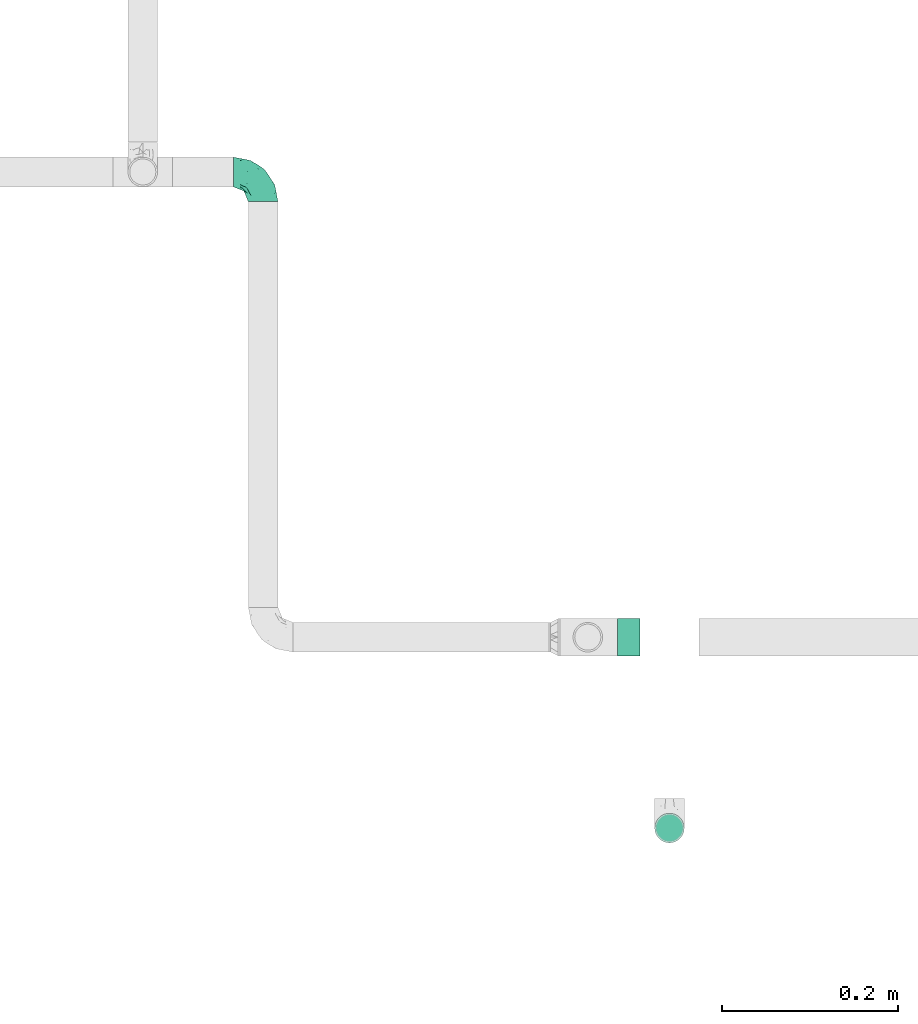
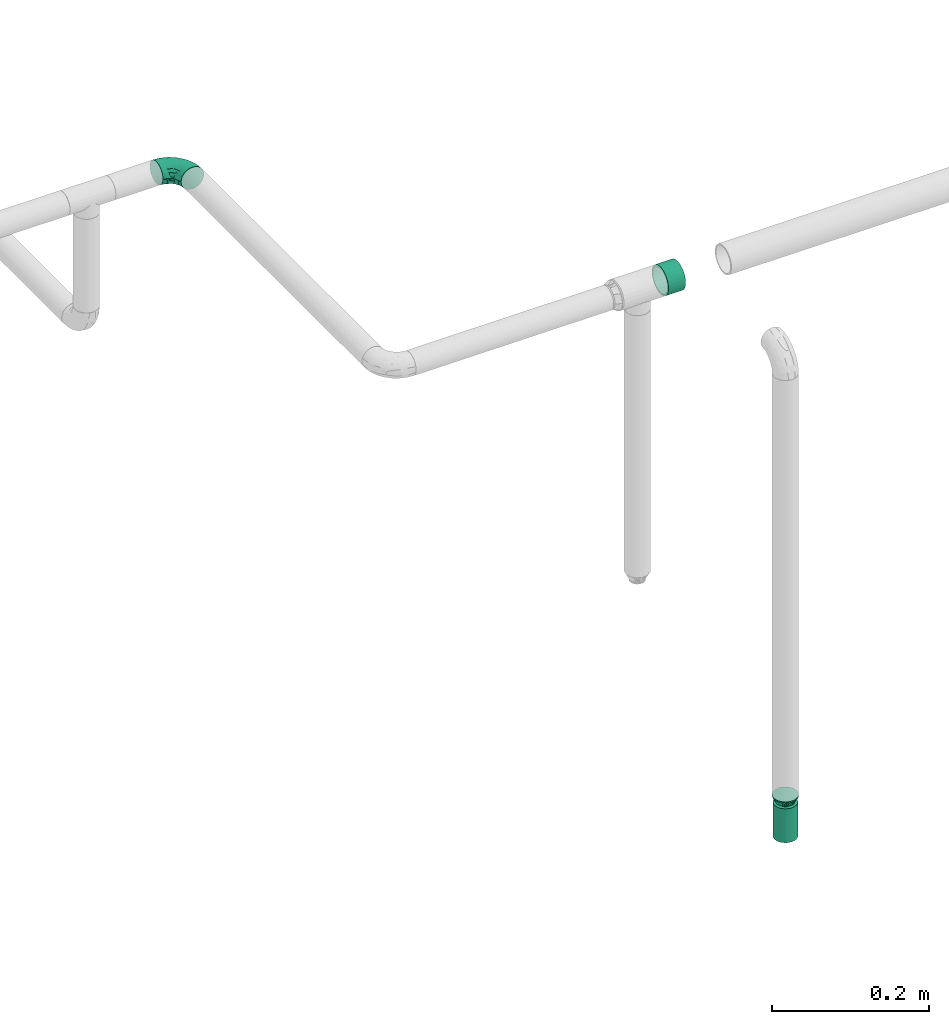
# One storey, part 59 of 94: 2 flow fittings, 1 flow segment, 1 flow terminal.
"""IFC2X3 building model written with IfcOpenShell, lengths in millimetres."""

from ifc_helpers import new_model, entity, si_unit, converted_unit, derived_unit, direction, frame, origin_with_axes, origin_2d_with_axis, place, context, subcontext, project, spatial, hollow_circle, extrude, open_shell, surface_model, source, transform, mapped, type_object, element, save


model = new_model("IFC2X3")

# Units and contexts
model_context = context("Model", 3, precision=0.01, world=frame((0.0, 4.29681676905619e-09, 0.0)), true_north=direction((4.01073788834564e-13, 1.0)))
plan_context = context("Plan", 3, precision=0.01, world=frame((0.0, 4.29681676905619e-09, 0.0)), true_north=direction((4.01073788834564e-13, 1.0)))
body_context = subcontext(model_context, "Body", "Model", "MODEL_VIEW")
ifc_project = project(units=[converted_unit("PLANEANGLEUNIT", "DEGREE", entity("IfcPositiveLengthMeasure", 0.0174532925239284), si_unit("PLANEANGLEUNIT", "RADIAN"), dimensions=[0, 0, 0, 0, 0, 0, 0]), si_unit("AREAUNIT", "SQUARE_METRE"), si_unit("LENGTHUNIT", "METRE", prefix="MILLI"), si_unit("MASSUNIT", "GRAM", prefix="KILO"), si_unit("POWERUNIT", "WATT"), si_unit("PRESSUREUNIT", "PASCAL", prefix="KILO"), si_unit("FORCEUNIT", "NEWTON", prefix="KILO"), si_unit("ELECTRICVOLTAGEUNIT", "VOLT"), si_unit("ELECTRICCURRENTUNIT", "AMPERE"), si_unit("THERMODYNAMICTEMPERATUREUNIT", "DEGREE_CELSIUS"), si_unit("TIMEUNIT", "SECOND"), si_unit("VOLUMEUNIT", "CUBIC_METRE"), derived_unit("LINEARVELOCITYUNIT", [(si_unit("LENGTHUNIT", "METRE"), 1), (si_unit("TIMEUNIT", "SECOND"), -1)]), derived_unit("VOLUMETRICFLOWRATEUNIT", [(si_unit("VOLUMEUNIT", "CUBIC_METRE"), 1), (si_unit("TIMEUNIT", "SECOND"), -1)]), derived_unit("THERMALTRANSMITTANCEUNIT", [(si_unit("POWERUNIT", "WATT"), 1), (si_unit("THERMODYNAMICTEMPERATUREUNIT", "KELVIN"), -1), (si_unit("AREAUNIT", "SQUARE_METRE"), -1)]), derived_unit("SOUNDPRESSUREUNIT", [(si_unit("PRESSUREUNIT", "PASCAL"), 1)])], contexts=[model_context, plan_context])

# Site, building, storey
site_placement = place(None, frame((0.0, -4.29681676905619e-09, 0.0), z_axis=(0.0, 0.0, 1.0), x_axis=(1.0, 0.0, 0.0)))
site = spatial("IfcSite", under=ifc_project, at=site_placement, CompositionType="ELEMENT")
building_placement = place(site_placement, frame((0.0, 4.29681676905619e-09, 0.0), z_axis=(0.0, 0.0, 1.0), x_axis=(1.0, 0.0, 0.0)))
building = spatial("IfcBuilding", under=site, at=building_placement, Name="mc-building", CompositionType="ELEMENT")
storey_placement = place(building_placement, frame((0.0, 0.0, 210900.0), z_axis=(0.0, 0.0, 1.0), x_axis=(1.0, 0.0, 0.0)))
storey = spatial("IfcBuildingStorey", under=building, at=storey_placement, Name="Nivå F", CompositionType="ELEMENT", Elevation=210900.0)

# Flow fittings
pipe_fitting_type_1 = type_object("IfcPipeFittingType", Name="magi_pipe_fe_elbow_short_001", PredefinedType="BEND")
shared_shape_1 = source(origin_with_axes(), body_context, "Body", "SurfaceModel", [
    surface_model("IfcShellBasedSurfaceModel", [(-33.8, 8.45, -14.63583), (-33.8, 4.37404, -16.32415), (-33.8, 11.9501, -11.9501), (-33.8, -11.9501, -11.9501), (-33.8, -14.63583, -8.45), (-33.8, -8.45, -14.63583), (-33.8, 0.0, -16.9), (-33.8, -4.37404, -16.32415), (-33.8, -4.37404, 16.32415), (-33.8, 0.0, 16.9), (-33.8, -8.45, 14.63583), (-33.8, 16.32415, -4.37404), (-33.8, 14.63583, -8.45), (-33.8, -16.32415, -4.37404), (-33.8, -16.9, 0.0), (-33.8, -16.32415, 4.37404), (-33.8, 11.9501, 11.9501), (-33.8, 14.63583, 8.45), (-33.8, 16.32415, 4.37404), (-33.8, 4.37404, 16.32415), (-33.8, 8.45, 14.63583), (-33.8, -14.63583, 8.45), (-33.8, -11.9501, 11.9501), (-33.8, 16.9, 0.0), (-11.9501, 33.8, -11.9501), (0.0, 33.8, -16.9), (-4.37404, 33.8, -16.32415), (-8.45, 33.8, -14.63583), (-14.63583, 33.8, -8.45), (-16.32415, 33.8, -4.37404), (14.63583, 33.8, -8.45), (8.45, 33.8, 14.63583), (16.32415, 33.8, -4.37404), (8.45, 33.8, -14.63583), (11.9501, 33.8, -11.9501), (4.37404, 33.8, -16.32415), (16.32415, 33.8, 4.37404), (16.9, 33.8, 0.0), (-11.9501, 33.8, 11.9501), (-16.32415, 33.8, 4.37404), (-14.63583, 33.8, 8.45), (-8.45, 33.8, 14.63583), (-4.37404, 33.8, 16.32415), (11.9501, 33.8, 11.9501), (14.63583, 33.8, 8.45), (0.0, 33.8, 16.9), (4.37404, 33.8, 16.32415), (-16.9, 33.8, 0.0), (-24.79389, -13.12945, 9.48721), (-22.19287, -9.75018, 12.59315), (-24.09897, -14.97035, 0.0), (-14.93934, -10.76256, 8.5297), (-22.46095, -14.75051, 5.27077), (14.75051, 22.46094, 5.27077), (11.9251, 13.23888, 4.33236), (13.04069, 14.39795, 0.0), (7.71387, 13.68847, 11.55891), (9.75018, 22.19287, 12.59315), (4.10169, 13.0571, 14.04018), (-24.84007, -6.39063, 15.2048), (-25.81779, -2.23879, 16.61097), (-23.66549, 2.59054, 16.87119), (-26.50418, 14.06512, 11.08152), (-24.21253, 17.66365, 7.72657), (-29.58514, 15.86957, 7.00283), (-6.17382, -7.5455, 0.0), (-13.23888, -11.9251, 4.33236), (-14.39795, -13.04069, 0.0), (-17.81434, 18.87373, 11.97104), (-6.30846, 29.15138, 15.82987), (-2.31622, 25.28002, 16.85849), (-29.23923, 10.23435, 13.77053), (-1.45439, -2.85688, 7.61475), (-0.28326, 0.34872, 10.09509), (-5.74484, -4.04709, 10.4122), (-4.41137, 11.31918, 16.59407), (-8.39727, 3.10034, 15.7812), (-1.72649, 9.1306, 15.53089), (-17.39909, 24.75344, 7.64977), (-26.19233, 20.0512, 0.0), (-28.14518, 17.29657, 4.25857), (-26.05147, 6.6281, 15.96447), (-5.87354, 16.61944, 16.86968), (-12.51807, 12.51807, 16.48937), (-10.06312, 7.38516, 16.81295), (-3.01882, 3.01882, 13.81718), (-13.0571, -4.10169, 14.04018), (-16.82553, -0.15166, 16.38038), (10.76256, 14.93934, 8.5297), (13.12945, 24.79389, 9.48721), (6.39063, 24.84007, 15.2048), (2.23879, 25.81779, 16.61097), (-13.68847, -7.71387, 11.55891), (14.97035, 24.09897, 0.0), (-7.30894, 22.89991, 16.09489), (-10.67958, 26.17414, 14.008), (-12.78295, 18.26924, 15.06066), (-13.88562, 22.45231, 12.93244), (-18.04944, 15.16501, 14.04434), (-23.11658, 20.08178, 4.02986), (-21.84989, 21.84989, 0.0), (-18.55817, 25.48277, 3.93065), (-13.95142, 26.94732, 11.03289), (-18.57098, 7.23906, 16.59756), (-16.58335, 4.14122, 16.89279), (-17.96666, 11.46709, 15.63151), (-9.84453, 17.54304, 16.18938), (0.15166, 16.82553, 16.38038), (-23.27207, 11.47201, 14.23154), (3.84842, 5.86994, 10.70473), (-8.0212, -7.54413, 7.93275), (1.00345, -2.19508, 4.57414), (5.13203, 3.01004, 5.90201), (5.24161, 1.7543, 2.53265), (8.70457, 7.04947, 3.99182), (-20.0512, 26.19233, 0.0), (8.4852, 8.76699, 7.09296), (-4.55488, -6.72064, 4.90681), (2.05031, -2.05031, 0.0), (7.5455, 6.17382, 0.0), (-26.75399, 2.1369, -16.845), (-14.61995, 24.73803, -11.27736), (-28.45274, -13.45335, -9.81895), (-26.00469, 6.63555, -15.96645), (-23.06726, 20.04573, -4.26202), (-13.80647, -4.26506, -14.17873), (-14.67501, -0.21081, -16.07388), (-6.7902, -0.2828, -13.8478), (-24.53586, 11.08096, -14.13417), (-26.72048, 14.00837, -11.05776), (10.0967, 24.44989, -12.75976), (5.83237, 21.40218, -15.03047), (6.66249, 28.54238, -15.38093), (-20.38182, 15.48705, -12.74596), (12.53268, 21.23441, -9.15363), (12.54494, 15.67504, -5.54878), (9.7522, 12.89279, -8.66343), (-15.65186, 19.64213, -13.01327), (-12.03528, 20.66498, -14.67665), (-15.61907, 15.61906, -14.83879), (-25.56551, -15.26206, 0.0), (-24.65452, -15.12934, -5.50955), (13.45335, 28.45274, -9.81895), (15.12934, 24.65452, -5.50955), (-7.35442, -8.31014, -5.65563), (-15.67504, -12.54494, -5.54878), (-24.44989, -10.0967, -12.75976), (0.16522, 0.41303, -9.71728), (-5.70658, -5.33066, -8.89288), (-5.13869, -2.37198, -11.53565), (-21.23441, -12.53268, -9.15363), (0.71146, 7.93863, -14.09382), (0.21081, 14.67501, -16.07388), (3.49291, 14.42772, -14.76381), (-24.89911, -2.13088, -16.591), (-28.54238, -6.66249, -15.38093), (-18.44386, -7.71663, -13.26957), (2.13088, 24.89911, -16.591), (-28.64342, 17.44413, -2.89318), (1.70017, -1.28722, -5.09504), (-16.57067, 26.81947, -7.36596), (-17.69055, 27.4263, -3.76405), (-12.89279, -9.7522, -8.66343), (-5.96611, 5.96611, -15.95814), (-20.53709, 20.09345, -8.28985), (-2.1369, 26.75399, -16.845), (-6.89872, 24.58781, -16.02578), (-10.60739, 26.53157, -13.98044), (-21.40218, -5.83237, -15.03047), (2.93192, 5.89627, -11.55917), (6.89393, 12.61842, -11.82233), (5.58056, 5.95325, -8.79455), (-3.99512, 18.61798, -16.89635), (8.31014, 7.35442, -5.65563), (-9.1383, 9.86148, -16.89041), (-9.99983, 16.02119, -16.39699), (-16.68576, 9.78031, -16.34199), (-27.01915, 16.61158, -7.12979), (15.26206, 25.56551, 0.0), (-18.61798, 3.99512, -16.89635), (-19.37495, 27.82495, 0.0), (-12.61842, -6.89393, -11.82233), (-18.84705, 19.14018, -10.96545)], [open_shell([[[0, 1, 2]], [[3, 4, 5]], [[6, 7, 5]], [[8, 9, 10]], [[1, 6, 2]], [[11, 12, 2]], [[4, 2, 6]], [[2, 13, 10]], [[5, 4, 6]], [[2, 4, 13]], [[14, 15, 13]], [[11, 2, 16]], [[11, 17, 18]], [[11, 16, 17]], [[19, 20, 16]], [[16, 2, 10]], [[19, 16, 10]], [[21, 22, 15]], [[22, 13, 15]], [[22, 10, 13]], [[10, 9, 19]], [[11, 18, 23]], [[24, 25, 26]], [[24, 26, 27]], [[24, 28, 29]], [[25, 24, 30]], [[31, 32, 24]], [[33, 30, 34]], [[33, 35, 25]], [[25, 30, 33]], [[32, 30, 24]], [[32, 36, 37]], [[38, 24, 29]], [[39, 40, 29]], [[40, 38, 29]], [[38, 41, 42]], [[38, 31, 24]], [[31, 38, 42]], [[36, 43, 44]], [[36, 32, 43]], [[31, 45, 46]], [[32, 31, 43]], [[42, 45, 31]], [[39, 29, 47]], [[22, 48, 49]], [[15, 14, 50]], [[51, 48, 52]], [[53, 54, 55]], [[48, 22, 21]], [[15, 52, 21]], [[56, 57, 58]], [[49, 10, 22]], [[49, 59, 10]], [[9, 60, 61]], [[62, 63, 64]], [[65, 66, 67]], [[57, 43, 31]], [[62, 68, 63]], [[42, 69, 70]], [[20, 71, 16]], [[8, 60, 9]], [[72, 73, 74]], [[75, 76, 77]], [[16, 62, 17]], [[40, 39, 78]], [[79, 23, 80]], [[64, 18, 17]], [[9, 61, 19]], [[19, 81, 20]], [[82, 83, 84]], [[74, 85, 86]], [[59, 86, 87]], [[88, 89, 57]], [[90, 31, 46]], [[44, 53, 36]], [[46, 45, 91]], [[54, 53, 88]], [[44, 89, 53]], [[92, 86, 49]], [[89, 44, 43]], [[10, 59, 8]], [[53, 55, 93]], [[93, 36, 53]], [[66, 52, 67]], [[94, 82, 70]], [[95, 96, 94]], [[97, 98, 96]], [[79, 99, 100]], [[41, 38, 95]], [[101, 100, 99]], [[68, 78, 63]], [[42, 41, 69]], [[23, 18, 80]], [[95, 94, 69]], [[78, 101, 99]], [[38, 102, 95]], [[70, 45, 42]], [[97, 95, 102]], [[15, 50, 52]], [[90, 57, 31]], [[57, 90, 58]], [[81, 19, 61]], [[103, 104, 84]], [[105, 81, 103]], [[38, 40, 102]], [[106, 96, 83]], [[94, 106, 82]], [[91, 70, 107]], [[71, 62, 16]], [[62, 108, 98]], [[86, 59, 49]], [[67, 52, 50]], [[60, 59, 87]], [[92, 49, 51]], [[86, 85, 76]], [[91, 90, 46]], [[37, 36, 93]], [[107, 77, 58]], [[107, 58, 90]], [[58, 85, 109]], [[110, 74, 92]], [[72, 74, 110]], [[66, 51, 52]], [[72, 111, 112]], [[113, 114, 112]], [[56, 88, 57]], [[52, 48, 21]], [[49, 48, 51]], [[57, 89, 43]], [[53, 89, 88]], [[103, 81, 61]], [[71, 81, 108]], [[18, 64, 80]], [[63, 78, 99]], [[47, 115, 101]], [[101, 115, 100]], [[40, 78, 102]], [[68, 102, 78]], [[97, 96, 95]], [[105, 98, 108]], [[103, 84, 83]], [[107, 70, 82]], [[76, 84, 87]], [[82, 84, 75]], [[70, 91, 45]], [[90, 91, 107]], [[59, 60, 8]], [[61, 60, 87]], [[73, 85, 74]], [[109, 112, 116]], [[103, 61, 104]], [[105, 103, 83]], [[96, 105, 83]], [[81, 105, 108]], [[96, 98, 105]], [[62, 98, 68]], [[61, 87, 104]], [[87, 84, 104]], [[86, 76, 87]], [[77, 76, 85]], [[58, 77, 85]], [[75, 77, 107]], [[82, 75, 107]], [[76, 75, 84]], [[81, 71, 20]], [[62, 71, 108]], [[95, 69, 41]], [[70, 69, 94]], [[62, 64, 17]], [[80, 63, 99]], [[63, 80, 64]], [[80, 99, 79]], [[66, 65, 117]], [[110, 66, 117]], [[112, 114, 116]], [[118, 117, 65]], [[110, 92, 51]], [[112, 111, 113]], [[119, 55, 54]], [[74, 86, 92]], [[58, 109, 56]], [[116, 56, 109]], [[66, 110, 51]], [[72, 110, 117]], [[111, 72, 117]], [[73, 112, 109]], [[117, 118, 111]], [[113, 111, 118]], [[118, 119, 113]], [[114, 119, 54]], [[119, 114, 113]], [[116, 54, 88]], [[54, 116, 114]], [[116, 88, 56]], [[112, 73, 72]], [[85, 73, 109]], [[78, 39, 101]], [[47, 101, 39]], [[102, 68, 97]], [[97, 68, 98]], [[82, 106, 83]], [[94, 96, 106]], [[1, 120, 6]], [[28, 24, 121]], [[3, 122, 4]], [[0, 123, 1]], [[100, 124, 79]], [[125, 126, 127]], [[128, 2, 129]], [[130, 131, 132]], [[128, 129, 133]], [[134, 135, 136]], [[137, 138, 139]], [[128, 0, 2]], [[67, 140, 141]], [[134, 142, 143]], [[141, 13, 4]], [[144, 65, 145]], [[146, 3, 5]], [[147, 148, 149]], [[145, 141, 150]], [[151, 152, 153]], [[154, 7, 6]], [[5, 155, 146]], [[150, 146, 156]], [[155, 5, 7]], [[143, 135, 134]], [[35, 157, 25]], [[23, 79, 158]], [[148, 159, 144]], [[160, 161, 29]], [[145, 162, 144]], [[163, 152, 151]], [[29, 28, 160]], [[121, 164, 160]], [[33, 34, 130]], [[25, 165, 26]], [[26, 165, 166]], [[142, 34, 30]], [[24, 27, 167]], [[124, 161, 164]], [[157, 35, 132]], [[155, 154, 168]], [[123, 0, 128]], [[169, 170, 171]], [[172, 157, 152]], [[26, 166, 27]], [[132, 35, 33]], [[142, 130, 34]], [[168, 154, 126]], [[136, 135, 173]], [[133, 137, 139]], [[2, 12, 129]], [[170, 131, 130]], [[30, 32, 143]], [[172, 174, 175]], [[176, 123, 128]], [[158, 177, 11]], [[135, 55, 119]], [[167, 27, 166]], [[175, 166, 172]], [[137, 167, 138]], [[122, 141, 4]], [[140, 14, 13]], [[32, 37, 178]], [[170, 130, 134]], [[152, 157, 131]], [[165, 157, 172]], [[153, 170, 151]], [[152, 163, 174]], [[168, 125, 156]], [[122, 146, 150]], [[120, 154, 6]], [[179, 174, 126]], [[179, 126, 154]], [[126, 163, 127]], [[162, 145, 150]], [[140, 13, 141]], [[32, 178, 143]], [[55, 143, 178]], [[177, 129, 12]], [[128, 133, 139]], [[176, 128, 139]], [[120, 123, 179]], [[121, 160, 28]], [[161, 100, 180]], [[166, 175, 138]], [[121, 24, 167]], [[161, 47, 29]], [[79, 124, 158]], [[124, 164, 177]], [[161, 124, 100]], [[136, 171, 170]], [[127, 163, 151]], [[147, 171, 159]], [[148, 144, 162]], [[127, 151, 169]], [[127, 181, 125]], [[129, 177, 164]], [[12, 11, 177]], [[159, 65, 144]], [[67, 141, 145]], [[143, 55, 135]], [[135, 119, 173]], [[123, 120, 1]], [[154, 120, 179]], [[157, 165, 25]], [[166, 165, 172]], [[172, 152, 174]], [[176, 139, 175]], [[126, 174, 163]], [[176, 174, 179]], [[174, 176, 175]], [[123, 176, 179]], [[150, 181, 162]], [[127, 149, 181]], [[181, 148, 162]], [[159, 148, 147]], [[171, 136, 173]], [[170, 134, 136]], [[159, 171, 173]], [[171, 147, 169]], [[169, 147, 149]], [[151, 170, 169]], [[164, 182, 129]], [[182, 121, 137]], [[181, 149, 148]], [[169, 149, 127]], [[182, 137, 133]], [[167, 137, 121]], [[166, 138, 167]], [[175, 139, 138]], [[129, 182, 133]], [[121, 182, 164]], [[161, 160, 164]], [[47, 161, 180]], [[177, 158, 124]], [[23, 158, 11]], [[130, 132, 33]], [[157, 132, 131]], [[143, 142, 30]], [[130, 142, 134]], [[154, 155, 7]], [[146, 155, 168]], [[146, 122, 3]], [[141, 122, 150]], [[152, 131, 153]], [[159, 119, 118]], [[67, 145, 65]], [[170, 153, 131]], [[119, 159, 173]], [[159, 118, 65]], [[156, 125, 181]], [[126, 125, 168]], [[150, 156, 181]], [[168, 156, 146]]])]),
])
flow_fitting_1_placement = place(storey_placement, frame((728137.10222, 436948.06941, 3500.0), z_axis=(0.0, 0.0, 1.0), x_axis=(0.0, 1.0, 0.0)))
element("IfcFlowFitting", 1, at=flow_fitting_1_placement, inside=storey, type_object=pipe_fitting_type_1, Name="magi_pipe_fe_elbow_short_001", context=body_context, shape_type="MappedRepresentation", body=[
    mapped(shared_shape_1, transform((0.0, 0.0, 0.0), scale=1.0)),
])
pipe_fitting_type_2 = type_object("IfcPipeFittingType", Name="magi_pipe_fe_reducer_centric_short_NOR", PredefinedType="TRANSITION")
shared_shape_2 = source(origin_with_axes(), body_context, "Body", "SurfaceModel", [
    surface_model("IfcShellBasedSurfaceModel", [(-2.0, -7.56604, -7.56604), (-2.0, -10.33541, -2.76936), (-2.0, -5.35, -9.26647), (-2.0, 5.35, -9.26647), (-2.0, 10.33541, -2.76936), (-2.0, 7.56604, -7.56604), (12.4, 11.9501, 11.9501), (12.4, 0.0, 16.9), (12.4, 11.9501, -11.9501), (12.4, 16.9, 0.0), (0.0, -10.7, 0.0), (0.0, -5.35, 9.26647), (0.0, -5.35, -9.26647), (0.0, 10.7, 0.0), (12.4, 15.66253, -2.98753), (12.4, 8.96258, -13.18758), (0.0, 6.6875, -6.94985), (12.4, -15.66253, -2.98753), (12.4, -16.9, 0.0), (12.4, 5.97505, -14.42505), (0.0, 5.35, -9.26647), (12.4, 14.42505, -5.97505), (0.0, 8.025, -4.63324), (0.0, 9.3625, -2.31662), (0.0, -9.3625, -2.31662), (0.0, -8.025, -4.63324), (12.4, -14.42505, -5.97505), (12.4, 13.18758, -8.96258), (12.4, -13.18758, -8.96258), (12.4, -11.9501, -11.9501), (0.0, -6.6875, -6.94985), (12.4, -8.96258, -13.18758), (12.4, -5.97505, -14.42505), (12.4, -15.66253, 2.98753), (12.4, -8.96258, 13.18758), (0.0, -6.6875, 6.94985), (12.4, -11.9501, 11.9501), (12.4, 15.66253, 2.98753), (12.4, -5.97505, 14.42505), (12.4, -14.42505, 5.97505), (0.0, -8.025, 4.63324), (0.0, -9.3625, 2.31662), (0.0, 9.3625, 2.31662), (0.0, 8.025, 4.63324), (12.4, 14.42505, 5.97505), (12.4, -13.18758, 8.96258), (12.4, 13.18758, 8.96258), (0.0, 6.6875, 6.94985), (12.4, 8.96258, 13.18758), (0.0, 5.35, 9.26647), (12.4, 5.97505, 14.42505), (14.4, 4.37404, -16.32415), (14.4, 8.45, -14.63583), (14.4, 11.9501, -11.9501), (14.4, -8.45, -14.63583), (14.4, 16.32415, -4.37404), (14.4, 16.32415, 4.37404), (14.4, 14.63583, -8.45), (14.4, 0.0, -16.9), (14.4, -4.37404, -16.32415), (14.4, -11.9501, -11.9501), (14.4, -16.32415, -4.37404), (14.4, -14.63583, -8.45), (14.4, -16.32415, 4.37404), (14.4, 16.9, 0.0), (14.4, 14.63583, 8.45), (14.4, 11.9501, 11.9501), (14.4, 4.37404, 16.32415), (14.4, 8.45, 14.63583), (14.4, 0.0, 16.9), (14.4, -14.63583, 8.45), (14.4, -16.9, 0.0), (14.4, -8.45, 14.63583), (14.4, -11.9501, 11.9501), (14.4, -4.37404, 16.32415), (12.4, 4.37404, 16.32415), (12.4, -14.63583, 8.45), (12.4, 16.32415, 4.37404), (12.4, 8.45, 14.63583), (12.4, 14.63583, 8.45), (12.4, -8.45, 14.63583), (12.4, -4.37404, 16.32415), (12.4, -16.32415, 4.37404), (12.4, -16.32415, -4.37404), (12.4, -8.45, -14.63583), (12.4, 16.32415, -4.37404), (12.4, 14.63583, -8.45), (12.4, 8.45, -14.63583), (12.4, 4.37404, -16.32415), (12.4, 0.0, -16.9), (12.4, -14.63583, -8.45), (12.4, -4.37404, -16.32415), (-2.0, 2.76936, 10.33541), (-2.0, 0.0, 10.7), (-2.0, 5.35, 9.26647), (-2.0, 7.56604, 7.56604), (-2.0, 9.26647, 5.35), (-2.0, 10.33541, 2.76936), (-2.0, -10.33541, 2.76936), (-2.0, -2.76936, 10.33541), (-2.0, -7.56604, 7.56604), (-2.0, -5.35, 9.26647), (-2.0, -9.26647, 5.35), (-2.0, -10.7, 0.0), (-2.0, 9.26647, -5.35), (-2.0, 2.76936, -10.33541), (-2.0, -9.26647, -5.35), (-2.0, 0.0, -10.7), (-2.0, -2.76936, -10.33541), (-2.0, 10.7, 0.0), (0.0, 0.0, -10.7), (0.0, 2.76936, -10.33541), (0.0, 10.33541, -2.76936), (0.0, 7.56604, -7.56604), (0.0, -10.33541, -2.76936), (0.0, 9.26647, -5.35), (0.0, 0.0, 10.7), (0.0, -2.76936, -10.33541), (0.0, -7.56604, -7.56604), (0.0, -9.26647, -5.35), (0.0, 10.33541, 2.76936), (0.0, 9.26647, 5.35), (0.0, 7.56604, 7.56604), (0.0, 2.76936, 10.33541), (0.0, -7.56604, 7.56604), (0.0, -10.33541, 2.76936), (0.0, -9.26647, 5.35), (0.0, -2.76936, 10.33541), (0.0, 2.675, -9.26647), (0.0, -2.675, -9.26647), (12.4, 2.98753, -15.66253), (0.0, 0.0, -9.26647), (12.4, -2.98753, -15.66253), (0.0, -2.675, 9.26647), (0.0, 2.675, 9.26647), (12.4, -2.98753, 15.66253), (0.0, 0.0, 9.26647), (12.4, 2.98753, 15.66253)], [open_shell([[[0, 1, 2]], [[3, 4, 5]], [[6, 7, 8]], [[8, 9, 6]], [[10, 11, 12]], [[13, 9, 14]], [[15, 16, 8]], [[17, 18, 10]], [[15, 19, 20]], [[21, 22, 23]], [[24, 25, 26]], [[22, 21, 27]], [[28, 26, 25]], [[29, 30, 31]], [[12, 32, 31]], [[10, 18, 33]], [[34, 35, 36]], [[37, 9, 13]], [[34, 38, 11]], [[39, 40, 41]], [[42, 43, 44]], [[40, 39, 45]], [[46, 44, 43]], [[6, 47, 48]], [[49, 50, 48]], [[51, 52, 53]], [[54, 51, 53]], [[53, 55, 56]], [[55, 53, 57]], [[53, 56, 54]], [[58, 54, 59]], [[58, 51, 54]], [[60, 61, 62]], [[61, 60, 54]], [[54, 63, 61]], [[56, 55, 64]], [[56, 65, 66]], [[56, 66, 67]], [[67, 63, 54]], [[67, 66, 68]], [[63, 67, 69]], [[69, 70, 63]], [[71, 61, 63]], [[70, 72, 73]], [[70, 69, 72]], [[72, 69, 74]], [[54, 56, 67]], [[75, 76, 7]], [[77, 75, 78]], [[6, 79, 77]], [[6, 77, 78]], [[76, 75, 77]], [[80, 76, 36]], [[80, 81, 7]], [[7, 76, 80]], [[82, 76, 77]], [[82, 83, 18]], [[82, 77, 84]], [[77, 85, 8]], [[8, 85, 86]], [[8, 87, 88]], [[84, 77, 8]], [[88, 89, 8]], [[83, 29, 90]], [[29, 83, 84]], [[84, 89, 91]], [[83, 82, 84]], [[8, 89, 84]], [[85, 77, 9]], [[83, 61, 18]], [[90, 62, 83]], [[54, 29, 84]], [[90, 29, 60]], [[59, 84, 91]], [[83, 62, 61]], [[61, 71, 18]], [[59, 54, 84]], [[60, 29, 54]], [[60, 62, 90]], [[58, 59, 91]], [[91, 89, 58]], [[88, 51, 89]], [[87, 52, 88]], [[57, 8, 86]], [[87, 8, 53]], [[55, 86, 85]], [[87, 53, 52]], [[52, 51, 88]], [[64, 55, 85]], [[57, 86, 55]], [[57, 53, 8]], [[9, 64, 85]], [[89, 51, 58]], [[77, 56, 9]], [[79, 65, 77]], [[68, 6, 78]], [[79, 6, 66]], [[67, 78, 75]], [[77, 65, 56]], [[56, 64, 9]], [[67, 68, 78]], [[66, 6, 68]], [[66, 65, 79]], [[69, 67, 75]], [[75, 7, 69]], [[81, 74, 7]], [[80, 72, 81]], [[70, 36, 76]], [[80, 36, 73]], [[63, 76, 82]], [[80, 73, 72]], [[72, 74, 81]], [[71, 63, 82]], [[70, 76, 63]], [[70, 73, 36]], [[18, 71, 82]], [[7, 74, 69]], [[92, 1, 93]], [[94, 1, 92]], [[95, 96, 97]], [[95, 97, 94]], [[98, 93, 1]], [[99, 100, 101]], [[99, 93, 100]], [[100, 98, 102]], [[93, 98, 100]], [[98, 1, 103]], [[94, 97, 1]], [[1, 97, 4]], [[5, 4, 104]], [[4, 3, 1]], [[105, 1, 3]], [[1, 0, 106]], [[2, 107, 108]], [[2, 1, 105]], [[105, 107, 2]], [[4, 97, 109]], [[20, 110, 111]], [[112, 20, 113]], [[114, 20, 112]], [[112, 113, 115]], [[116, 114, 112]], [[110, 12, 117]], [[110, 20, 12]], [[118, 114, 119]], [[114, 118, 12]], [[20, 114, 12]], [[112, 13, 120]], [[120, 121, 122]], [[120, 122, 123]], [[116, 112, 123]], [[123, 122, 49]], [[116, 124, 114]], [[125, 124, 126]], [[10, 114, 125]], [[124, 127, 11]], [[125, 114, 124]], [[127, 124, 116]], [[123, 112, 120]], [[1, 114, 103]], [[106, 119, 1]], [[12, 0, 2]], [[106, 0, 118]], [[117, 2, 108]], [[1, 119, 114]], [[114, 10, 103]], [[117, 12, 2]], [[118, 0, 12]], [[118, 119, 106]], [[110, 117, 108]], [[108, 107, 110]], [[105, 111, 107]], [[3, 20, 105]], [[115, 5, 104]], [[3, 5, 113]], [[112, 104, 4]], [[3, 113, 20]], [[20, 111, 105]], [[13, 112, 4]], [[115, 104, 112]], [[115, 113, 5]], [[109, 13, 4]], [[107, 111, 110]], [[97, 120, 109]], [[96, 121, 97]], [[49, 95, 94]], [[96, 95, 122]], [[123, 94, 92]], [[97, 121, 120]], [[120, 13, 109]], [[123, 49, 94]], [[122, 95, 49]], [[122, 121, 96]], [[116, 123, 92]], [[92, 93, 116]], [[99, 127, 93]], [[101, 11, 99]], [[126, 100, 102]], [[101, 100, 124]], [[125, 102, 98]], [[101, 124, 11]], [[11, 127, 99]], [[10, 125, 98]], [[126, 102, 125]], [[126, 124, 100]], [[103, 10, 98]], [[93, 127, 116]], [[18, 7, 36]], [[18, 29, 8]], [[89, 8, 29]], [[18, 8, 7]], [[13, 11, 49]], [[13, 20, 12]], [[13, 12, 11]], [[24, 26, 17]], [[10, 24, 17]], [[16, 15, 20]], [[30, 12, 31]], [[23, 14, 21]], [[19, 128, 20]], [[27, 8, 16]], [[32, 12, 129]], [[30, 28, 25]], [[130, 131, 128]], [[129, 132, 32]], [[16, 22, 27]], [[13, 14, 23]], [[128, 19, 130]], [[130, 89, 131]], [[131, 132, 129]], [[89, 132, 131]], [[28, 30, 29]], [[42, 44, 37]], [[13, 42, 37]], [[35, 34, 11]], [[47, 49, 48]], [[41, 33, 39]], [[38, 133, 11]], [[45, 36, 35]], [[50, 49, 134]], [[47, 46, 43]], [[135, 136, 133]], [[134, 137, 50]], [[35, 40, 45]], [[10, 33, 41]], [[133, 38, 135]], [[135, 7, 136]], [[136, 137, 134]], [[7, 137, 136]], [[46, 47, 6]]])]),
])
flow_fitting_2_placement = place(storey_placement, frame((728600.0, 436200.7, 2794.49074000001), z_axis=(0.0, -1.0, 0.0), x_axis=(0.0, 0.0, 1.0)))
element("IfcFlowFitting", 2, at=flow_fitting_2_placement, inside=storey, type_object=pipe_fitting_type_2, Name="magi_pipe_fe_reducer_centric_short_NOR", context=body_context, shape_type="MappedRepresentation", body=[
    mapped(shared_shape_2, transform((0.0, 0.0, 0.0), scale=1.0)),
])

# Flow segment
pipe_segment_type = type_object("IfcPipeSegmentType", Name="Stålrør normaltykke", PredefinedType="RIGIDSEGMENT")
shared_shape_3 = source(origin_with_axes(), body_context, "Body", "SweptSolid", [
    extrude(hollow_circle(Radius=21.2, WallThickness=2.0, at=origin_2d_with_axis()), frame((0.0, 0.0, 0.0), z_axis=(1.0, 0.0, 0.0), x_axis=(0.0, 1.0, 0.0)), (0.0, 0.0, 1.0), 25.4),
])
flow_segment_placement = place(storey_placement, frame((728566.2, 436418.06941, 3500.0), z_axis=(0.0, 0.0, 1.0), x_axis=(-1.0, 0.0, 0.0)))
element("IfcFlowSegment", 3, at=flow_segment_placement, inside=storey, type_object=pipe_segment_type, Name="Stålrør normaltykke", context=body_context, shape_type="MappedRepresentation", body=[
    mapped(shared_shape_3, transform((0.0, 0.0, 0.0), scale=1.0)),
])

# Flow terminal
fire_suppression_terminal_type = type_object("IfcFireSuppressionTerminalType", Name="SP-15-K80-68DGR-STD-HIMLING", PredefinedType="NOTDEFINED")
shared_shape_4 = source(origin_with_axes(), body_context, "Body", "SurfaceModel", [
    surface_model("IfcShellBasedSurfaceModel", [(4.1411, -15.45481, 53.0), (8.0, -13.85641, 53.0), (11.31371, -11.31371, 53.0), (-8.0, -13.85641, 53.0), (15.45481, -4.1411, 53.0), (16.0, 0.0, 53.0), (13.85641, -8.0, 53.0), (0.0, -16.0, 53.0), (-4.1411, -15.45481, 53.0), (-13.85641, -8.0, 53.0), (-11.31371, -11.31371, 53.0), (-15.45481, -4.1411, 53.0), (15.45481, 4.1411, 53.0), (13.85641, 8.0, 53.0), (11.31371, 11.31371, 53.0), (-4.1411, 15.45481, 53.0), (8.0, 13.85641, 53.0), (4.1411, 15.45481, 53.0), (0.0, 16.0, 53.0), (-13.85641, 8.0, 53.0), (-15.45481, 4.1411, 53.0), (-16.0, 0.0, 53.0), (-11.31371, 11.31371, 53.0), (-8.0, 13.85641, 53.0), (0.0, 16.0, 0.0), (4.1411, 15.45481, 0.0), (8.0, 13.85641, 0.0), (-4.1411, 15.45481, 0.0), (11.31371, 11.31371, 0.0), (13.85641, 8.0, 0.0), (15.45481, 4.1411, 0.0), (-15.45481, -4.1411, 0.0), (-11.31371, 11.31371, 0.0), (-8.0, 13.85641, 0.0), (-13.85641, 8.0, 0.0), (-15.45481, 4.1411, 0.0), (-16.0, 0.0, 0.0), (4.1411, -15.45481, 0.0), (16.0, 0.0, 0.0), (15.45481, -4.1411, 0.0), (13.85641, -8.0, 0.0), (11.31371, -11.31371, 0.0), (8.0, -13.85641, 0.0), (-8.0, -13.85641, 0.0), (-13.85641, -8.0, 0.0), (-11.31371, -11.31371, 0.0), (0.0, -16.0, 0.0), (-4.1411, -15.45481, 0.0)], [open_shell([[[0, 1, 2]], [[3, 0, 2]], [[4, 5, 2]], [[4, 2, 6]], [[3, 2, 5]], [[7, 3, 8]], [[7, 0, 3]], [[3, 9, 10]], [[9, 3, 11]], [[5, 11, 3]], [[5, 12, 11]], [[12, 13, 14]], [[15, 12, 14]], [[16, 17, 18]], [[14, 16, 15]], [[18, 15, 16]], [[11, 19, 20]], [[21, 11, 20]], [[22, 15, 23]], [[15, 22, 19]], [[19, 11, 15]], [[11, 12, 15]], [[24, 25, 26]], [[27, 24, 26]], [[28, 29, 30]], [[27, 26, 28]], [[27, 28, 31]], [[27, 32, 33]], [[32, 27, 34]], [[34, 31, 35]], [[31, 34, 27]], [[35, 31, 36]], [[28, 30, 31]], [[37, 38, 39]], [[37, 39, 40]], [[41, 42, 37]], [[41, 37, 40]], [[38, 37, 43]], [[44, 43, 45]], [[43, 44, 31]], [[43, 46, 47]], [[43, 31, 38]], [[37, 46, 43]], [[38, 31, 30]], [[11, 31, 44]], [[45, 9, 44]], [[3, 43, 47]], [[45, 43, 10]], [[8, 47, 46]], [[31, 21, 36]], [[31, 11, 21]], [[44, 9, 11]], [[45, 10, 9]], [[3, 10, 43]], [[47, 8, 3]], [[46, 7, 8]], [[0, 37, 42]], [[41, 1, 42]], [[6, 40, 39]], [[41, 40, 2]], [[4, 39, 38]], [[37, 0, 7]], [[42, 1, 0]], [[41, 2, 1]], [[40, 6, 2]], [[4, 6, 39]], [[38, 5, 4]], [[37, 7, 46]], [[12, 38, 30]], [[13, 30, 29]], [[16, 26, 25]], [[17, 25, 24]], [[30, 13, 12]], [[12, 5, 38]], [[28, 14, 13]], [[28, 26, 14]], [[14, 26, 16]], [[25, 17, 16]], [[28, 13, 29]], [[24, 18, 17]], [[15, 27, 33]], [[32, 23, 33]], [[19, 34, 35]], [[32, 34, 22]], [[20, 35, 36]], [[27, 15, 18]], [[33, 23, 15]], [[32, 22, 23]], [[34, 19, 22]], [[20, 19, 35]], [[36, 21, 20]], [[27, 18, 24]]])]),
])
flow_terminal_placement = place(storey_placement, frame((728600.0, 436200.7, 2797.53873999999), z_axis=(0.0, 0.0, -1.0), x_axis=(-1.0, 0.0, 0.0)))
element("IfcFlowTerminal", 4, at=flow_terminal_placement, inside=storey, type_object=fire_suppression_terminal_type, Name="SP-15-K80-68DGR-STD-HIMLING", context=body_context, shape_type="MappedRepresentation", body=[
    mapped(shared_shape_4, transform((0.0, 0.0, 0.0), scale=1.0)),
])

save(model, "model.ifc")
